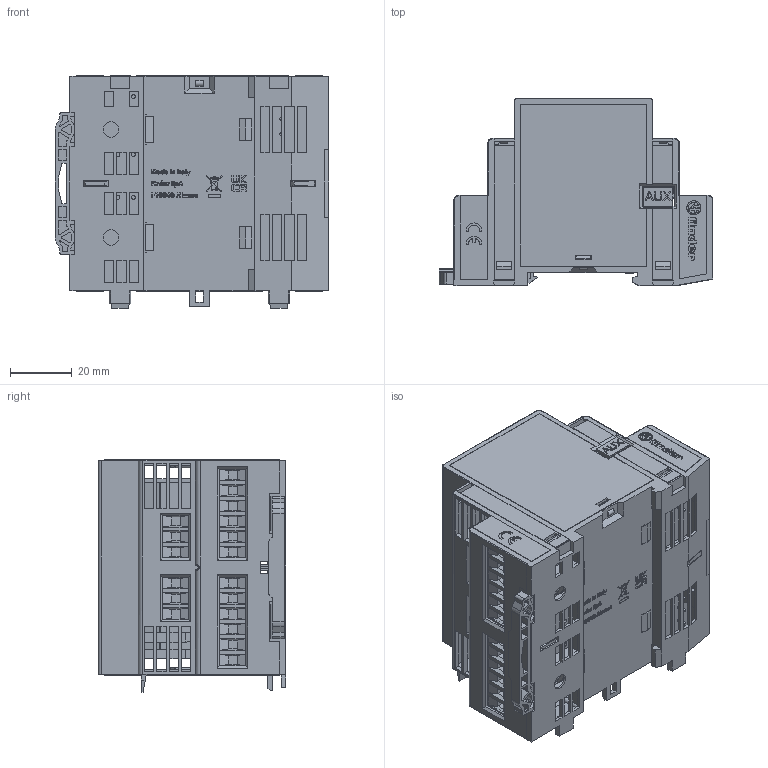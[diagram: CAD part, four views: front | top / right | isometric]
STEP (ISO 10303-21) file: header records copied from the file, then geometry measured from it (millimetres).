
FILE_DESCRIPTION(/* description */ ('Unknown'),/* implementation_level */ '2;1');
FILE_NAME(/* name */ 'AFX00005',/* time_stamp */ '2024-04-09T12:14:57+02:00',/* author */ ('Unknown'),/* organization */ ('Unknown'),/* preprocessor_version */ 'ST-DEVELOPER v18.102',/* originating_system */ 'Solid Edge',/* authorisation */ 'Unknown');
FILE_SCHEMA (('AUTOMOTIVE_DESIGN {1 0 10303 214 3 1 1}'));
Products named in the file (1): AFX00005
Bounding box: 88.85 x 60.8 x 75.5 mm (x, y, z)
Volume: 72163.2 mm3; surface area: 97189.2 mm2
Topology: 1 solids, 1 shells, 5388 faces, 15049 edges, 9946 vertices
Faces by surface type: plane 4516, cylinder 742, bspline 68, cone 44, torus 17, sphere 1
Full cylindrical faces by diameter (mm): 0.2 x1, 0.222 x2, 0.364 x4, 0.374 x2, 0.4 x1, 0.429 x5, 0.6 x6, 1.3 x40, 1.5 x2, 2.6 x36, 2.85 x36, 3 x4, 3.8 x36, 4.564 x1, 5 x2
Entity records: 211004 total; most frequent: CARTESIAN_POINT 35056, ORIENTED_EDGE 29390, DIRECTION 26407, EDGE_CURVE 14695, LINE 12345, VECTOR 12345, VERTEX_POINT 9819, AXIS2_PLACEMENT_3D 7031
